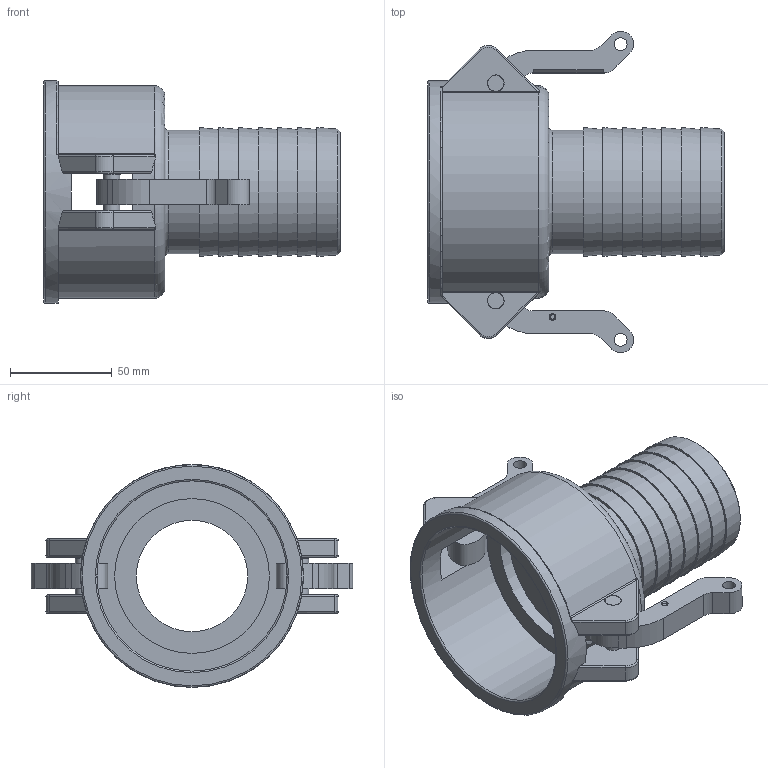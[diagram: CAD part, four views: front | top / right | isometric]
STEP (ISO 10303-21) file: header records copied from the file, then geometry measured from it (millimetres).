
FILE_DESCRIPTION(/* description */ ('Alibre Inc.'),/* implementation_level */ '2;1');
FILE_NAME(/* name */ 'export0',/* time_stamp */ '2016-08-11T15:54:08-04:00',/* author */ (''),/* organization */ (''),/* preprocessor_version */ 'ST-DEVELOPER v14',/* originating_system */ 'Alibre',/* authorisation */ '');
FILE_SCHEMA (('CONFIG_CONTROL_DESIGN'));
Length unit declared in the file: centimetre
Products named in the file (5): ID_1; ID_2; ID_3; ID_4
Bounding box: 146.05 x 158.32 x 109.73 mm (x, y, z)
Volume: 250092.6 mm3; surface area: 108177.9 mm2
Topology: 6 solids, 6 shells, 164 faces, 398 edges, 258 vertices
Faces by surface type: plane 72, cylinder 57, torus 13, cone 12, bspline 10
Full cylindrical faces by diameter (mm): 6.35 x2, 7.925 x6, 8.179 x4, 54.864 x1, 60.96 x1, 76.2 x1, 93.726 x1, 94.488 x1, 96.774 x1, 109.728 x1
Entity records: 6073 total; most frequent: CARTESIAN_POINT 2555, ORIENTED_EDGE 596, DIRECTION 563, EDGE_CURVE 298, AXIS2_PLACEMENT_3D 259, VERTEX_POINT 209, EDGE_LOOP 195, FACE_BOUND 195
